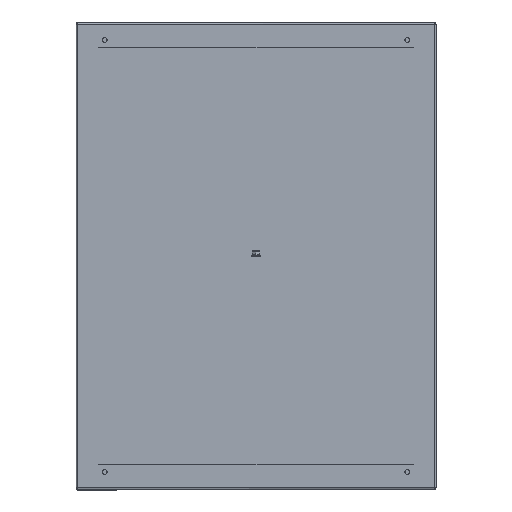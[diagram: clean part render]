
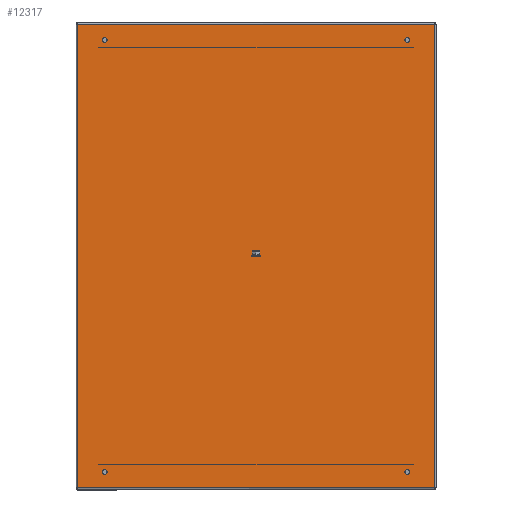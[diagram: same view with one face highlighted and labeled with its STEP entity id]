
A CAD part, front view. The second image highlights one B-rep face of the part: STEP entity #12317.
In plain terms, the highlighted planar face has unit normal (0, -1, 0).
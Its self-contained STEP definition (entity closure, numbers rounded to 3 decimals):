
#194 = CARTESIAN_POINT ( 'NONE',  ( 210., 0., -300. ) ) ;
#297 = VERTEX_POINT ( 'NONE', #7872 ) ;
#343 = EDGE_CURVE ( 'NONE', #10535, #1288, #12975, .T. ) ;
#356 = PLANE ( 'NONE',  #4060 ) ;
#454 = CARTESIAN_POINT ( 'NONE',  ( 210., 0., 300. ) ) ;
#560 = AXIS2_PLACEMENT_3D ( 'NONE', #12925, #7509, #6571 ) ;
#633 = ORIENTED_EDGE ( 'NONE', *, *, #2244, .T. ) ;
#787 = CIRCLE ( 'NONE', #5232, 3.25 ) ;
#853 = LINE ( 'NONE', #3516, #12707 ) ;
#912 = AXIS2_PLACEMENT_3D ( 'NONE', #454, #12022, #13089 ) ;
#959 = CIRCLE ( 'NONE', #912, 3.25 ) ;
#995 = AXIS2_PLACEMENT_3D ( 'NONE', #194, #8468, #11801 ) ;
#1006 = EDGE_LOOP ( 'NONE', ( #5092, #5460 ) ) ;
#1288 = VERTEX_POINT ( 'NONE', #9396 ) ;
#1368 = CIRCLE ( 'NONE', #2220, 3.25 ) ;
#1406 = DIRECTION ( 'NONE',  ( 0., -1., 0. ) ) ;
#1557 = DIRECTION ( 'NONE',  ( 0., 1., 0. ) ) ;
#1566 = VERTEX_POINT ( 'NONE', #11413 ) ;
#1598 = CARTESIAN_POINT ( 'NONE',  ( -210., 0., -300. ) ) ;
#1616 = EDGE_CURVE ( 'NONE', #5433, #6235, #3027, .T. ) ;
#1643 = DIRECTION ( 'NONE',  ( -1., 0., 0. ) ) ;
#1858 = VECTOR ( 'NONE', #6969, 1000. ) ;
#1879 = CARTESIAN_POINT ( 'NONE',  ( 248., 0., 322.2 ) ) ;
#2031 = CARTESIAN_POINT ( 'NONE',  ( 210., 0., -300. ) ) ;
#2096 = ORIENTED_EDGE ( 'NONE', *, *, #3048, .T. ) ;
#2154 = CARTESIAN_POINT ( 'NONE',  ( 248., 0., 322.2 ) ) ;
#2220 = AXIS2_PLACEMENT_3D ( 'NONE', #8827, #4707, #1643 ) ;
#2244 = EDGE_CURVE ( 'NONE', #4391, #6678, #1368, .T. ) ;
#2317 = EDGE_CURVE ( 'NONE', #3845, #12885, #9226, .T. ) ;
#2511 = VECTOR ( 'NONE', #2930, 1000. ) ;
#2527 = ORIENTED_EDGE ( 'NONE', *, *, #13482, .T. ) ;
#2643 = CARTESIAN_POINT ( 'NONE',  ( 206.75, 0., 300. ) ) ;
#2870 = CARTESIAN_POINT ( 'NONE',  ( -248., 0., -322.2 ) ) ;
#2926 = EDGE_LOOP ( 'NONE', ( #6948, #5200 ) ) ;
#2930 = DIRECTION ( 'NONE',  ( -1., 0., 0. ) ) ;
#3027 = LINE ( 'NONE', #1879, #2511 ) ;
#3048 = EDGE_CURVE ( 'NONE', #12885, #5433, #10983, .T. ) ;
#3184 = FACE_BOUND ( 'NONE', #1006, .T. ) ;
#3352 = EDGE_CURVE ( 'NONE', #6273, #297, #10818, .T. ) ;
#3448 = DIRECTION ( 'NONE',  ( 0., 0., 1. ) ) ;
#3475 = CARTESIAN_POINT ( 'NONE',  ( -248., 0., -324.2 ) ) ;
#3516 = CARTESIAN_POINT ( 'NONE',  ( -248., 0., -322.2 ) ) ;
#3518 = DIRECTION ( 'NONE',  ( -1., 0., 0. ) ) ;
#3581 = CIRCLE ( 'NONE', #995, 3.25 ) ;
#3637 = EDGE_LOOP ( 'NONE', ( #633, #12051 ) ) ;
#3650 = ORIENTED_EDGE ( 'NONE', *, *, #2317, .T. ) ;
#3823 = DIRECTION ( 'NONE',  ( 0., 1., 0. ) ) ;
#3845 = VERTEX_POINT ( 'NONE', #8754 ) ;
#3991 = AXIS2_PLACEMENT_3D ( 'NONE', #6280, #12552, #13603 ) ;
#4053 = EDGE_CURVE ( 'NONE', #297, #6273, #787, .T. ) ;
#4060 = AXIS2_PLACEMENT_3D ( 'NONE', #3475, #1406, #3518 ) ;
#4108 = EDGE_CURVE ( 'NONE', #1288, #10535, #3581, .T. ) ;
#4355 = AXIS2_PLACEMENT_3D ( 'NONE', #2031, #3823, #11141 ) ;
#4391 = VERTEX_POINT ( 'NONE', #2643 ) ;
#4707 = DIRECTION ( 'NONE',  ( 0., 1., 0. ) ) ;
#4765 = CARTESIAN_POINT ( 'NONE',  ( 206.75, 0., -300. ) ) ;
#5092 = ORIENTED_EDGE ( 'NONE', *, *, #343, .T. ) ;
#5152 = CARTESIAN_POINT ( 'NONE',  ( -210., 0., 300. ) ) ;
#5200 = ORIENTED_EDGE ( 'NONE', *, *, #3352, .T. ) ;
#5232 = AXIS2_PLACEMENT_3D ( 'NONE', #5152, #13565, #7246 ) ;
#5433 = VERTEX_POINT ( 'NONE', #2154 ) ;
#5460 = ORIENTED_EDGE ( 'NONE', *, *, #4108, .T. ) ;
#5767 = ORIENTED_EDGE ( 'NONE', *, *, #1616, .T. ) ;
#5996 = FACE_OUTER_BOUND ( 'NONE', #6438, .T. ) ;
#6235 = VERTEX_POINT ( 'NONE', #7124 ) ;
#6263 = CARTESIAN_POINT ( 'NONE',  ( -206.75, 0., -300. ) ) ;
#6273 = VERTEX_POINT ( 'NONE', #7973 ) ;
#6280 = CARTESIAN_POINT ( 'NONE',  ( -210., 0., -300. ) ) ;
#6438 = EDGE_LOOP ( 'NONE', ( #3650, #2096, #5767, #8733 ) ) ;
#6472 = CIRCLE ( 'NONE', #12056, 3.25 ) ;
#6475 = FACE_BOUND ( 'NONE', #2926, .T. ) ;
#6571 = DIRECTION ( 'NONE',  ( 1., 0., 0. ) ) ;
#6584 = EDGE_LOOP ( 'NONE', ( #10183, #2527 ) ) ;
#6678 = VERTEX_POINT ( 'NONE', #9204 ) ;
#6757 = CARTESIAN_POINT ( 'NONE',  ( 248., 0., -322.2 ) ) ;
#6802 = FACE_BOUND ( 'NONE', #3637, .T. ) ;
#6948 = ORIENTED_EDGE ( 'NONE', *, *, #4053, .T. ) ;
#6969 = DIRECTION ( 'NONE',  ( 1., 0., 0. ) ) ;
#7124 = CARTESIAN_POINT ( 'NONE',  ( -248., 0., 322.2 ) ) ;
#7246 = DIRECTION ( 'NONE',  ( 1., 0., 0. ) ) ;
#7509 = DIRECTION ( 'NONE',  ( 0., 1., 0. ) ) ;
#7525 = DIRECTION ( 'NONE',  ( 0., 0., 1. ) ) ;
#7872 = CARTESIAN_POINT ( 'NONE',  ( -206.75, 0., 300. ) ) ;
#7973 = CARTESIAN_POINT ( 'NONE',  ( -213.25, 0., 300. ) ) ;
#8468 = DIRECTION ( 'NONE',  ( 0., 1., 0. ) ) ;
#8733 = ORIENTED_EDGE ( 'NONE', *, *, #12928, .F. ) ;
#8754 = CARTESIAN_POINT ( 'NONE',  ( -248., 0., -322.2 ) ) ;
#8820 = CARTESIAN_POINT ( 'NONE',  ( 248., 0., -322.2 ) ) ;
#8827 = CARTESIAN_POINT ( 'NONE',  ( 210., 0., 300. ) ) ;
#8967 = DIRECTION ( 'NONE',  ( 1., 0., 0. ) ) ;
#9189 = VECTOR ( 'NONE', #3448, 1000. ) ;
#9204 = CARTESIAN_POINT ( 'NONE',  ( 213.25, 0., 300. ) ) ;
#9226 = LINE ( 'NONE', #2870, #1858 ) ;
#9396 = CARTESIAN_POINT ( 'NONE',  ( 213.25, 0., -300. ) ) ;
#9494 = EDGE_CURVE ( 'NONE', #10088, #1566, #6472, .T. ) ;
#10088 = VERTEX_POINT ( 'NONE', #6263 ) ;
#10183 = ORIENTED_EDGE ( 'NONE', *, *, #9494, .T. ) ;
#10535 = VERTEX_POINT ( 'NONE', #4765 ) ;
#10818 = CIRCLE ( 'NONE', #560, 3.25 ) ;
#10983 = LINE ( 'NONE', #6757, #9189 ) ;
#11141 = DIRECTION ( 'NONE',  ( -1., 0., 0. ) ) ;
#11413 = CARTESIAN_POINT ( 'NONE',  ( -213.25, 0., -300. ) ) ;
#11801 = DIRECTION ( 'NONE',  ( -1., 0., 0. ) ) ;
#12022 = DIRECTION ( 'NONE',  ( 0., 1., 0. ) ) ;
#12051 = ORIENTED_EDGE ( 'NONE', *, *, #13602, .T. ) ;
#12056 = AXIS2_PLACEMENT_3D ( 'NONE', #1598, #1557, #8967 ) ;
#12317 = ADVANCED_FACE ( 'NONE', ( #5996, #12402, #6475, #6802, #3184 ), #356, .T. ) ;
#12402 = FACE_BOUND ( 'NONE', #6584, .T. ) ;
#12552 = DIRECTION ( 'NONE',  ( 0., 1., 0. ) ) ;
#12669 = CIRCLE ( 'NONE', #3991, 3.25 ) ;
#12707 = VECTOR ( 'NONE', #7525, 1000. ) ;
#12885 = VERTEX_POINT ( 'NONE', #8820 ) ;
#12925 = CARTESIAN_POINT ( 'NONE',  ( -210., 0., 300. ) ) ;
#12928 = EDGE_CURVE ( 'NONE', #3845, #6235, #853, .T. ) ;
#12975 = CIRCLE ( 'NONE', #4355, 3.25 ) ;
#13089 = DIRECTION ( 'NONE',  ( -1., 0., 0. ) ) ;
#13482 = EDGE_CURVE ( 'NONE', #1566, #10088, #12669, .T. ) ;
#13565 = DIRECTION ( 'NONE',  ( 0., 1., 0. ) ) ;
#13602 = EDGE_CURVE ( 'NONE', #6678, #4391, #959, .T. ) ;
#13603 = DIRECTION ( 'NONE',  ( 1., 0., 0. ) ) ;
